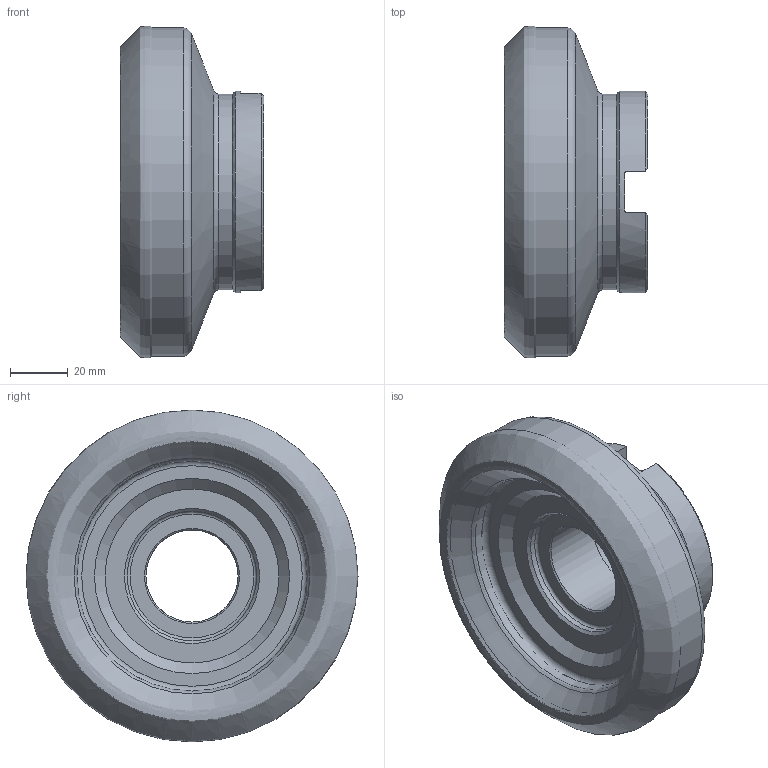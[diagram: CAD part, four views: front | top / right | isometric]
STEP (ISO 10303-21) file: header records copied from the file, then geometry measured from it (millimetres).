
FILE_DESCRIPTION(/* description */ (''),/* implementation_level */ '2;1');
FILE_NAME(/* name */ '637716441067525870.stp',/* time_stamp */ '2021-11-04T17:35:21+08:00',/* author */ (''),/* organization */ (''),/* preprocessor_version */ 'ST-DEVELOPER v16.7',/* originating_system */ 'SIEMENS PLM Software NX 12.0',/* authorisation */ '');
FILE_SCHEMA (('AUTOMOTIVE_DESIGN { 1 0 10303 214 3 1 1 1 }'));
Length unit declared in the file: millimetre
Products named in the file (2): 637716441028388551_SNEG1506ANR-GM; 637716441000580987_FMA11-100-B32-SN15-07_S
Assembly tree (7 placements, depth 2):
  637716441000580987_FMA11-100-B32-SN15-07_S
    637716441028388551_SNEG1506ANR-GM  x7
Bounding box: 50.01 x 115.34 x 115.34 mm (x, y, z)
Surface area: 149866.5 mm2
Topology: 8 solids, 8 shells, 58 faces, 136 edges, 82 vertices
Faces by surface type: plane 18, cone 13, cylinder 10, torus 10, revolution 7
Full cylindrical faces by diameter (mm): 32 x1, 45 x1, 68 x1, 70 x1, 80.663 x1, 114 x1
Entity records: 2222 total; most frequent: CARTESIAN_POINT 968, DIRECTION 229, ORIENTED_EDGE 178, AXIS2_PLACEMENT_3D 99, EDGE_CURVE 89, EDGE_LOOP 76, VERTEX_POINT 72, FACE_BOUND 59
